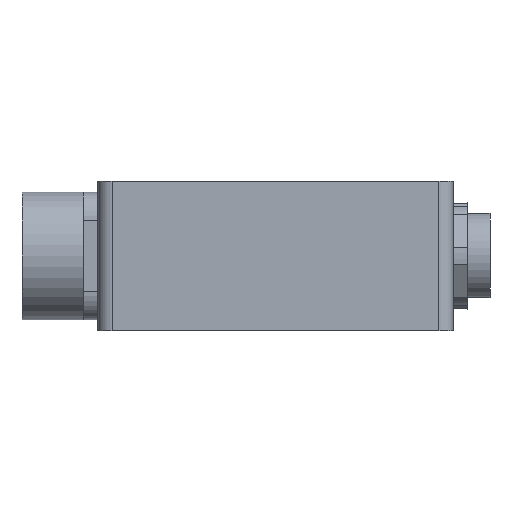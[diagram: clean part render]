
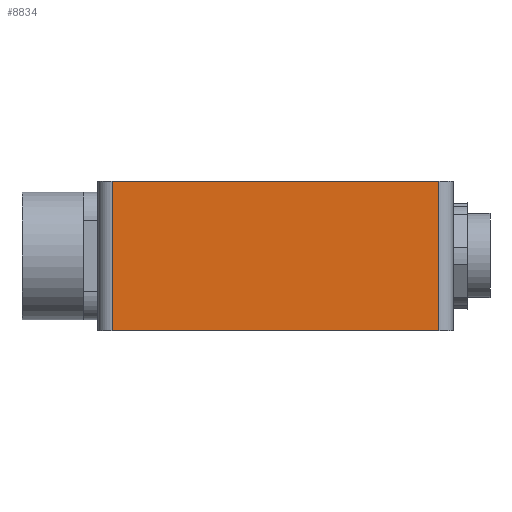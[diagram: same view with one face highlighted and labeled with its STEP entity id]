
A CAD part, front view. The second image highlights one B-rep face of the part: STEP entity #8834.
In plain terms, the highlighted planar face has unit normal (0, -1, 0).
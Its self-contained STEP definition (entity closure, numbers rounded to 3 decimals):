
#5172 = PLANE('',#5173);
#5173 = AXIS2_PLACEMENT_3D('',#5174,#5175,#5176);
#5174 = CARTESIAN_POINT('',(43.,1.5,21.));
#5175 = DIRECTION('',(0.,0.,1.));
#5176 = DIRECTION('',(1.,0.,0.));
#8834 = ADVANCED_FACE('',(#8835),#8849,.F.);
#8835 = FACE_BOUND('',#8836,.T.);
#8836 = EDGE_LOOP('',(#8837,#8871,#8899,#8926));
#8837 = ORIENTED_EDGE('',*,*,#8838,.F.);
#8838 = EDGE_CURVE('',#8839,#8841,#8843,.T.);
#8839 = VERTEX_POINT('',#8840);
#8840 = CARTESIAN_POINT('',(-1.,-3.,0.));
#8841 = VERTEX_POINT('',#8842);
#8842 = CARTESIAN_POINT('',(-1.,-3.,21.));
#8843 = SURFACE_CURVE('',#8844,(#8848,#8860),.PCURVE_S1.);
#8844 = LINE('',#8845,#8846);
#8845 = CARTESIAN_POINT('',(-1.,-3.,19.49));
#8846 = VECTOR('',#8847,1.);
#8847 = DIRECTION('',(0.,0.,1.));
#8848 = PCURVE('',#8849,#8854);
#8849 = PLANE('',#8850);
#8850 = AXIS2_PLACEMENT_3D('',#8851,#8852,#8853);
#8851 = CARTESIAN_POINT('',(46.5,-3.,10.5));
#8852 = DIRECTION('',(0.,1.,0.));
#8853 = DIRECTION('',(0.,0.,1.));
#8854 = DEFINITIONAL_REPRESENTATION('',(#8855),#8859);
#8855 = LINE('',#8856,#8857);
#8856 = CARTESIAN_POINT('',(8.99,-47.5));
#8857 = VECTOR('',#8858,1.);
#8858 = DIRECTION('',(1.,0.));
#8859 = ( GEOMETRIC_REPRESENTATION_CONTEXT(2) 
PARAMETRIC_REPRESENTATION_CONTEXT() REPRESENTATION_CONTEXT('2D SPACE',''
  ) );
#8860 = PCURVE('',#8861,#8866);
#8861 = CYLINDRICAL_SURFACE('',#8862,2.);
#8862 = AXIS2_PLACEMENT_3D('',#8863,#8864,#8865);
#8863 = CARTESIAN_POINT('',(-1.,-1.,10.5));
#8864 = DIRECTION('',(0.,0.,-1.));
#8865 = DIRECTION('',(-0.707,-0.707,0.));
#8866 = DEFINITIONAL_REPRESENTATION('',(#8867),#8870);
#8867 = B_SPLINE_CURVE_WITH_KNOTS('',1,(#8868,#8869),.UNSPECIFIED.,.F.,
  .F.,(2,2),(-19.49,1.51),.PIECEWISE_BEZIER_KNOTS.);
#8868 = CARTESIAN_POINT('',(5.498,10.5));
#8869 = CARTESIAN_POINT('',(5.498,-10.5));
#8870 = ( GEOMETRIC_REPRESENTATION_CONTEXT(2) 
PARAMETRIC_REPRESENTATION_CONTEXT() REPRESENTATION_CONTEXT('2D SPACE',''
  ) );
#8871 = ORIENTED_EDGE('',*,*,#8872,.F.);
#8872 = EDGE_CURVE('',#8873,#8839,#8875,.T.);
#8873 = VERTEX_POINT('',#8874);
#8874 = CARTESIAN_POINT('',(45.,-3.,0.));
#8875 = SURFACE_CURVE('',#8876,(#8880,#8887),.PCURVE_S1.);
#8876 = LINE('',#8877,#8878);
#8877 = CARTESIAN_POINT('',(22.,-3.,0.));
#8878 = VECTOR('',#8879,1.);
#8879 = DIRECTION('',(-1.,0.,0.));
#8880 = PCURVE('',#8849,#8881);
#8881 = DEFINITIONAL_REPRESENTATION('',(#8882),#8886);
#8882 = LINE('',#8883,#8884);
#8883 = CARTESIAN_POINT('',(-10.5,-24.5));
#8884 = VECTOR('',#8885,1.);
#8885 = DIRECTION('',(0.,-1.));
#8886 = ( GEOMETRIC_REPRESENTATION_CONTEXT(2) 
PARAMETRIC_REPRESENTATION_CONTEXT() REPRESENTATION_CONTEXT('2D SPACE',''
  ) );
#8887 = PCURVE('',#8888,#8893);
#8888 = PLANE('',#8889);
#8889 = AXIS2_PLACEMENT_3D('',#8890,#8891,#8892);
#8890 = CARTESIAN_POINT('',(46.5,46.5,0.));
#8891 = DIRECTION('',(0.,0.,1.));
#8892 = DIRECTION('',(1.,0.,0.));
#8893 = DEFINITIONAL_REPRESENTATION('',(#8894),#8898);
#8894 = LINE('',#8895,#8896);
#8895 = CARTESIAN_POINT('',(-24.5,-49.5));
#8896 = VECTOR('',#8897,1.);
#8897 = DIRECTION('',(-1.,0.));
#8898 = ( GEOMETRIC_REPRESENTATION_CONTEXT(2) 
PARAMETRIC_REPRESENTATION_CONTEXT() REPRESENTATION_CONTEXT('2D SPACE',''
  ) );
#8899 = ORIENTED_EDGE('',*,*,#8900,.F.);
#8900 = EDGE_CURVE('',#8901,#8873,#8903,.T.);
#8901 = VERTEX_POINT('',#8902);
#8902 = CARTESIAN_POINT('',(45.,-3.,21.));
#8903 = SURFACE_CURVE('',#8904,(#8908,#8915),.PCURVE_S1.);
#8904 = LINE('',#8905,#8906);
#8905 = CARTESIAN_POINT('',(45.,-3.,10.125));
#8906 = VECTOR('',#8907,1.);
#8907 = DIRECTION('',(0.,0.,-1.));
#8908 = PCURVE('',#8849,#8909);
#8909 = DEFINITIONAL_REPRESENTATION('',(#8910),#8914);
#8910 = LINE('',#8911,#8912);
#8911 = CARTESIAN_POINT('',(-0.375,-1.5));
#8912 = VECTOR('',#8913,1.);
#8913 = DIRECTION('',(-1.,0.));
#8914 = ( GEOMETRIC_REPRESENTATION_CONTEXT(2) 
PARAMETRIC_REPRESENTATION_CONTEXT() REPRESENTATION_CONTEXT('2D SPACE',''
  ) );
#8915 = PCURVE('',#8916,#8921);
#8916 = CYLINDRICAL_SURFACE('',#8917,2.);
#8917 = AXIS2_PLACEMENT_3D('',#8918,#8919,#8920);
#8918 = CARTESIAN_POINT('',(45.,-1.,10.125));
#8919 = DIRECTION('',(0.,0.,-1.));
#8920 = DIRECTION('',(0.707,-0.707,0.));
#8921 = DEFINITIONAL_REPRESENTATION('',(#8922),#8925);
#8922 = B_SPLINE_CURVE_WITH_KNOTS('',1,(#8923,#8924),.UNSPECIFIED.,.F.,
  .F.,(2,2),(-10.875,10.125),.PIECEWISE_BEZIER_KNOTS.);
#8923 = CARTESIAN_POINT('',(7.069,-10.875));
#8924 = CARTESIAN_POINT('',(7.069,10.125));
#8925 = ( GEOMETRIC_REPRESENTATION_CONTEXT(2) 
PARAMETRIC_REPRESENTATION_CONTEXT() REPRESENTATION_CONTEXT('2D SPACE',''
  ) );
#8926 = ORIENTED_EDGE('',*,*,#8927,.F.);
#8927 = EDGE_CURVE('',#8841,#8901,#8928,.T.);
#8928 = SURFACE_CURVE('',#8929,(#8933,#8940),.PCURVE_S1.);
#8929 = LINE('',#8930,#8931);
#8930 = CARTESIAN_POINT('',(43.,-3.,21.));
#8931 = VECTOR('',#8932,1.);
#8932 = DIRECTION('',(1.,0.,0.));
#8933 = PCURVE('',#8849,#8934);
#8934 = DEFINITIONAL_REPRESENTATION('',(#8935),#8939);
#8935 = LINE('',#8936,#8937);
#8936 = CARTESIAN_POINT('',(10.5,-3.5));
#8937 = VECTOR('',#8938,1.);
#8938 = DIRECTION('',(0.,1.));
#8939 = ( GEOMETRIC_REPRESENTATION_CONTEXT(2) 
PARAMETRIC_REPRESENTATION_CONTEXT() REPRESENTATION_CONTEXT('2D SPACE',''
  ) );
#8940 = PCURVE('',#5172,#8941);
#8941 = DEFINITIONAL_REPRESENTATION('',(#8942),#8946);
#8942 = LINE('',#8943,#8944);
#8943 = CARTESIAN_POINT('',(0.,-4.5));
#8944 = VECTOR('',#8945,1.);
#8945 = DIRECTION('',(1.,0.));
#8946 = ( GEOMETRIC_REPRESENTATION_CONTEXT(2) 
PARAMETRIC_REPRESENTATION_CONTEXT() REPRESENTATION_CONTEXT('2D SPACE',''
  ) );
